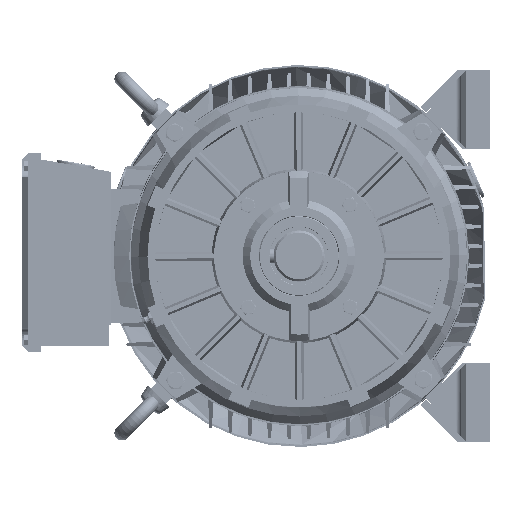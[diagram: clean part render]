
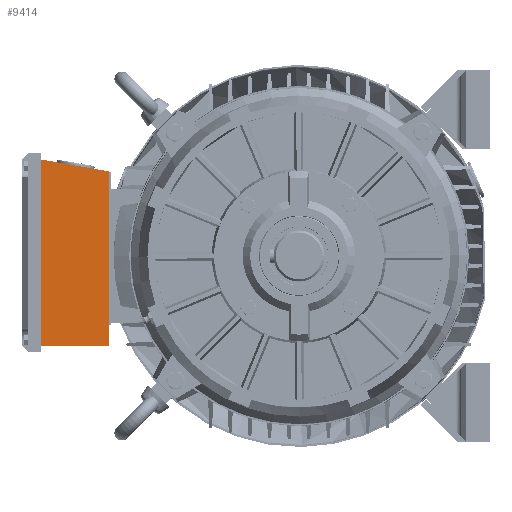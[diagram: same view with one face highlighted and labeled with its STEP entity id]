
A CAD part, left-side view. The second image highlights one B-rep face of the part: STEP entity #9414.
In plain terms, the highlighted planar face has unit normal (-1, 0, 0) as drawn and (0, 1, 0) by its records, which use the part's own axes.
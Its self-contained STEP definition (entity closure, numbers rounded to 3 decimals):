
#9213 = VERTEX_POINT ( 'NONE', #151232 ) ;
#9276 = VERTEX_POINT ( 'NONE', #151246 ) ;
#9282 = EDGE_CURVE ( 'NONE', #9276, #9213, #151242, .T. ) ;
#9338 = VERTEX_POINT ( 'NONE', #151373 ) ;
#9343 = EDGE_CURVE ( 'NONE', #9344, #9338, #151361, .T. ) ;
#9344 = VERTEX_POINT ( 'NONE', #151471 ) ;
#9414 = ADVANCED_FACE ( 'NONE', ( #151600 ), #151599, .F. ) ;
#9417 = EDGE_LOOP ( 'NONE', ( #9424, #9429, #9436, #9442 ) ) ;
#9424 = ORIENTED_EDGE ( 'NONE', *, *, #9425, .T. ) ;
#9425 = EDGE_CURVE ( 'NONE', #9338, #9213, #151582, .T. ) ;
#9429 = ORIENTED_EDGE ( 'NONE', *, *, #9282, .F. ) ;
#9436 = ORIENTED_EDGE ( 'NONE', *, *, #9438, .F. ) ;
#9438 = EDGE_CURVE ( 'NONE', #9344, #9276, #151555, .T. ) ;
#9442 = ORIENTED_EDGE ( 'NONE', *, *, #9343, .T. ) ;
#151232 = CARTESIAN_POINT ( 'NONE',  ( -84.35, 76., 0. ) ) ;
#151241 = CARTESIAN_POINT ( 'NONE',  ( -84.35, 76., 64. ) ) ;
#151242 = LINE ( 'NONE', #151241, #151359 ) ;
#151246 = CARTESIAN_POINT ( 'NONE',  ( -84.35, 76., 64. ) ) ;
#151358 = DIRECTION ( 'NONE',  ( 0., 0., -1. ) ) ;
#151359 = VECTOR ( 'NONE', #151358, 1000. ) ;
#151360 = CARTESIAN_POINT ( 'NONE',  ( 75.384, 76., 92.165 ) ) ;
#151361 = LINE ( 'NONE', #151360, #151473 ) ;
#151373 = CARTESIAN_POINT ( 'NONE',  ( 91.635, 76., 0. ) ) ;
#151471 = CARTESIAN_POINT ( 'NONE',  ( 80.35, 76., 64. ) ) ;
#151472 = DIRECTION ( 'NONE',  ( 0.174, 0., -0.985 ) ) ;
#151473 = VECTOR ( 'NONE', #151472, 1000. ) ;
#151551 = DIRECTION ( 'NONE',  ( -1., 0., 0. ) ) ;
#151553 = VECTOR ( 'NONE', #151551, 1000. ) ;
#151554 = CARTESIAN_POINT ( 'NONE',  ( -84.35, 76., 64. ) ) ;
#151555 = LINE ( 'NONE', #151554, #151553 ) ;
#151571 = DIRECTION ( 'NONE',  ( -1., 0., 0. ) ) ;
#151573 = VECTOR ( 'NONE', #151571, 1000. ) ;
#151574 = CARTESIAN_POINT ( 'NONE',  ( -84.35, 76., 0. ) ) ;
#151582 = LINE ( 'NONE', #151574, #151573 ) ;
#151587 = DIRECTION ( 'NONE',  ( 0., 0., -1. ) ) ;
#151589 = DIRECTION ( 'NONE',  ( 0., -1., 0. ) ) ;
#151592 = AXIS2_PLACEMENT_3D ( 'NONE', #151598, #151589, #151587 ) ;
#151598 = CARTESIAN_POINT ( 'NONE',  ( -84.35, 76., 64. ) ) ;
#151599 = PLANE ( 'NONE',  #151592 ) ;
#151600 = FACE_OUTER_BOUND ( 'NONE', #9417, .T. ) ;
